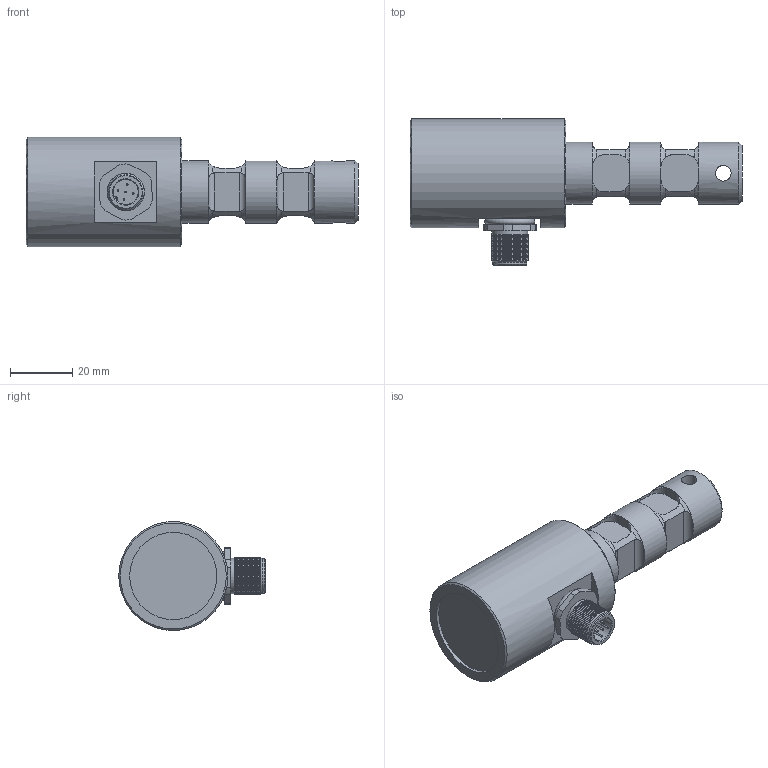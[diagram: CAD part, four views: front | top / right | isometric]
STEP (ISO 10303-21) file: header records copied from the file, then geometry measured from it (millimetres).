
FILE_DESCRIPTION(/* description */ ('Alibre Inc.'),/* implementation_level */ '2;1');
FILE_NAME(/* name */ 'export-1F4A707C-90C6-40C5-BE4B-EFA5DF658C3D',/* time_stamp */ '2021-06-16T15:39:02+02:00',/* author */ (''),/* organization */ (''),/* preprocessor_version */ 'ST-DEVELOPER v17',/* originating_system */ 'Alibre',/* authorisation */ '');
FILE_SCHEMA (('CONFIG_CONTROL_DESIGN'));
Length unit declared in the file: centimetre
Bounding box: 106.5 x 47 x 35 mm (x, y, z)
Surface area: 165664.5 mm2
Topology: 7 solids, 8 shells, 257 faces, 572 edges, 338 vertices
Faces by surface type: cylinder 90, plane 77, cone 72, torus 18
Full cylindrical faces by diameter (mm): 0.5 x10, 5 x1, 8 x2, 10 x1, 11 x1, 11.5 x1, 12 x21, 13 x2, 14.5 x1, 20 x3, 28 x1, 35 x1
Entity records: 6470 total; most frequent: CARTESIAN_POINT 1720, ORIENTED_EDGE 924, DIRECTION 740, EDGE_CURVE 456, EDGE_LOOP 377, FACE_BOUND 377, AXIS2_PLACEMENT_3D 343, VERTEX_POINT 321
